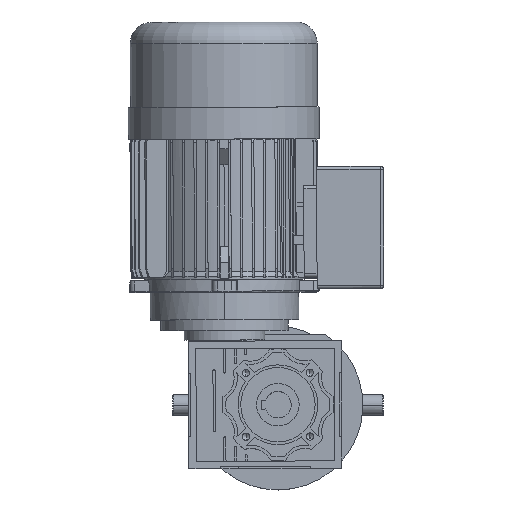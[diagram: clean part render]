
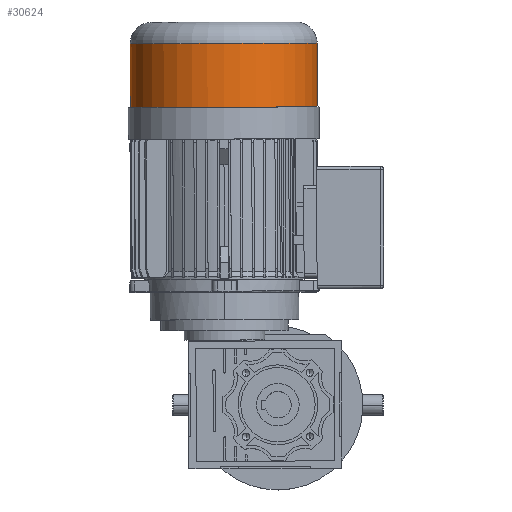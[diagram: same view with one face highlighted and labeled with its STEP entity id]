
A CAD part, top view. The second image highlights one B-rep face of the part: STEP entity #30624.
In plain terms, the highlighted cylindrical face has radius 88 mm (diameter 176 mm), a partial arc.
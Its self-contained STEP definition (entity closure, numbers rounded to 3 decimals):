
#593 = VERTEX_POINT ( 'NONE', #54582 ) ;
#1112 = AXIS2_PLACEMENT_3D ( 'NONE', #53081, #26592, #57554 ) ;
#3108 = CIRCLE ( 'NONE', #1112, 88. ) ;
#3137 = EDGE_CURVE ( 'NONE', #42901, #15132, #37899, .T. ) ;
#5049 = CARTESIAN_POINT ( 'NONE',  ( 0., -88., -250. ) ) ;
#5166 = ORIENTED_EDGE ( 'NONE', *, *, #37475, .T. ) ;
#6524 = CARTESIAN_POINT ( 'NONE',  ( 0., 0., -250. ) ) ;
#6932 = LINE ( 'NONE', #36846, #39522 ) ;
#7295 = CARTESIAN_POINT ( 'NONE',  ( 0., 88., -310. ) ) ;
#11002 = DIRECTION ( 'NONE',  ( 0., 1., 0. ) ) ;
#14373 = FACE_OUTER_BOUND ( 'NONE', #37730, .T. ) ;
#14423 = CARTESIAN_POINT ( 'NONE',  ( 0., -88., -330. ) ) ;
#15132 = VERTEX_POINT ( 'NONE', #56662 ) ;
#18740 = EDGE_CURVE ( 'NONE', #593, #42901, #53544, .T. ) ;
#20719 = CARTESIAN_POINT ( 'NONE',  ( 0., 0., -330. ) ) ;
#20860 = ORIENTED_EDGE ( 'NONE', *, *, #18740, .T. ) ;
#26592 = DIRECTION ( 'NONE',  ( 0., 0., 1. ) ) ;
#30000 = VECTOR ( 'NONE', #36475, 1000. ) ;
#30624 = ADVANCED_FACE ( 'NONE', ( #14373 ), #44103, .T. ) ;
#33496 = ORIENTED_EDGE ( 'NONE', *, *, #36116, .F. ) ;
#36116 = EDGE_CURVE ( 'NONE', #52201, #15132, #6932, .T. ) ;
#36475 = DIRECTION ( 'NONE',  ( 0., 0., 1. ) ) ;
#36846 = CARTESIAN_POINT ( 'NONE',  ( 0., 88., -330. ) ) ;
#37475 = EDGE_CURVE ( 'NONE', #52201, #593, #3108, .T. ) ;
#37559 = DIRECTION ( 'NONE',  ( 0., 0., -1. ) ) ;
#37730 = EDGE_LOOP ( 'NONE', ( #33496, #5166, #20860, #51902 ) ) ;
#37899 = CIRCLE ( 'NONE', #40173, 88. ) ;
#39522 = VECTOR ( 'NONE', #49977, 1000. ) ;
#40173 = AXIS2_PLACEMENT_3D ( 'NONE', #6524, #37559, #11002 ) ;
#41644 = AXIS2_PLACEMENT_3D ( 'NONE', #20719, #51639, #47388 ) ;
#42901 = VERTEX_POINT ( 'NONE', #5049 ) ;
#44103 = CYLINDRICAL_SURFACE ( 'NONE', #41644, 88. ) ;
#47388 = DIRECTION ( 'NONE',  ( 0., -1., 0. ) ) ;
#49977 = DIRECTION ( 'NONE',  ( 0., 0., 1. ) ) ;
#51639 = DIRECTION ( 'NONE',  ( 0., 0., 1. ) ) ;
#51902 = ORIENTED_EDGE ( 'NONE', *, *, #3137, .T. ) ;
#52201 = VERTEX_POINT ( 'NONE', #7295 ) ;
#53081 = CARTESIAN_POINT ( 'NONE',  ( 0., 0., -310. ) ) ;
#53544 = LINE ( 'NONE', #14423, #30000 ) ;
#54582 = CARTESIAN_POINT ( 'NONE',  ( 0., -88., -310. ) ) ;
#56662 = CARTESIAN_POINT ( 'NONE',  ( 0., 88., -250. ) ) ;
#57554 = DIRECTION ( 'NONE',  ( 0., 1., 0. ) ) ;
